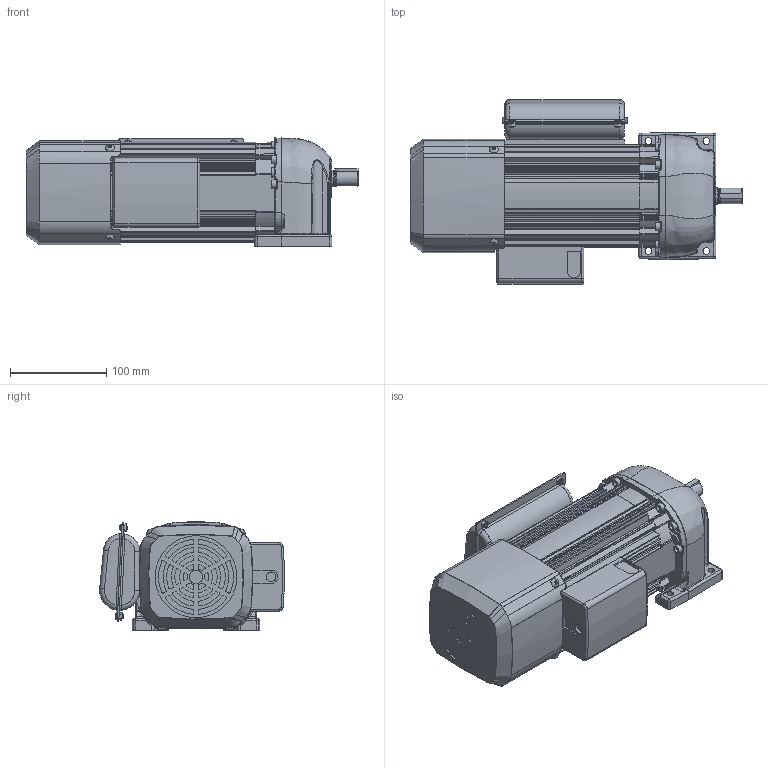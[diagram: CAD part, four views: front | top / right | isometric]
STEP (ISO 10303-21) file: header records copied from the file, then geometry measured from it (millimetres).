
FILE_DESCRIPTION( ( 'Unknown' ), '1' );
FILE_NAME( 'W:/gm/3D-WEB/GM-SS(単相)/完成品/パーツ/完成品/完成品(GM-SS_脚取付_0.2kW_ﾌﾞﾚｰｷ付き_A).stp', 'Unknown', ( 'Unknown' ), ( 'Unknown' ), 'PSStep 11.0', 'Unknown', ' ' );
FILE_SCHEMA( ( 'AUTOMOTIVE_DESIGN { 1 0 10303 214 1 1 1 1 }' ) );
Length unit declared in the file: millimetre
Products named in the file (6): P264972_端子箱ｹｰｽ+PF03388_端子箱ｶﾊﾞｰ(ﾌﾞ
Bounding box: 344.5 x 191.87 x 112.24 mm (x, y, z)
Volume: 2462678.8 mm3; surface area: 427354.9 mm2
Topology: 6 solids, 30 shells, 1864 faces, 4750 edges, 3021 vertices
Faces by surface type: plane 835, cylinder 735, bspline 120, torus 90, cone 56, sphere 22, offset 6
Full cylindrical faces by diameter (mm): 3.3 x6, 3.8 x8, 4 x4, 4.134 x8, 4.5 x8, 4.8 x10, 4.917 x1, 5 x10, 5.5 x8, 6 x4, 6.2 x1, 6.5 x2, 7 x12, 8.5 x8, 10 x1, 12 x2, 14 x1, 14.5 x1, 15 x1, 15.7 x1, 16 x1, 17 x2, 20.1 x2, 25 x1, 29 x1, 30 x1, 47 x1, 85 x1, 96 x1, 100.5 x2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
Entity records: 84679 total; most frequent: CARTESIAN_POINT 25518, DIRECTION 9301, ORIENTED_EDGE 8990, EDGE_CURVE 4495, AXIS2_PLACEMENT_3D 3616, VERTEX_POINT 2945, EDGE_LOOP 2149, LINE 2069
